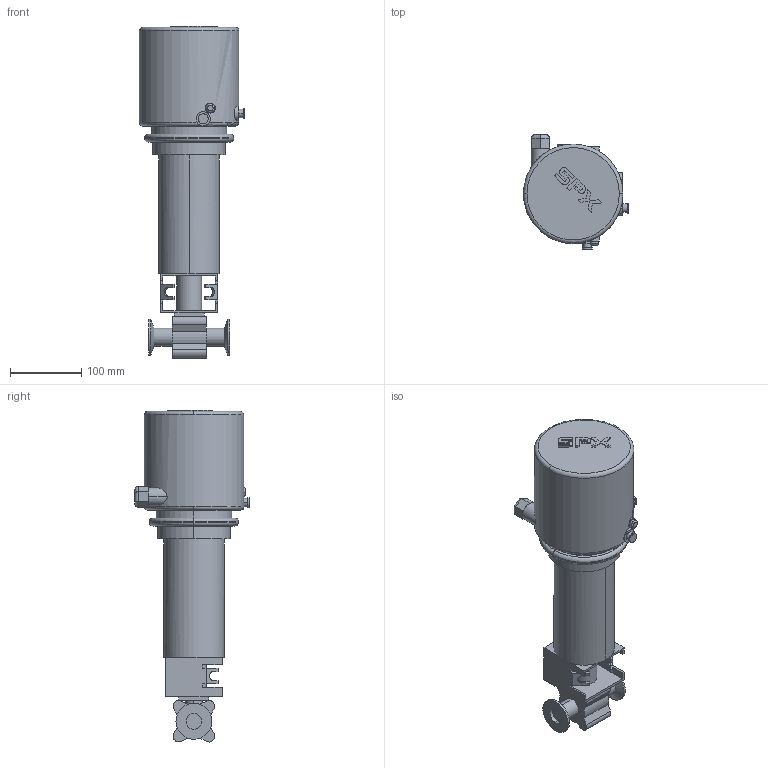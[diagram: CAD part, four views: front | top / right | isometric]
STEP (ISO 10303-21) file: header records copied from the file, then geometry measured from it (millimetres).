
FILE_DESCRIPTION(('Creo Elements/Direct Modeling STEP Export'),'2;1');
FILE_NAME('BLV1-1T-NC-12CL-CU4.stp','2019-05-10T 8:10:07',(''),(''),'Creo Elements/Direct Modeling STEP processor for AP214 (Solid Model)','Creo Elements/Direct Modeling 19.0F 14-Feb-2017 (C) Parametric Technology GmbH','');
FILE_SCHEMA(('AUTOMOTIVE_DESIGN { 1 0 10303 214 1 1 1 1 }'));
Length unit declared in the file: millimetre
Products named in the file (2): BLV1-1T-NC-12CL-CU4
Assembly tree (1 placements, depth 2):
  BLV1-1T-NC-12CL-CU4
    BLV1-1T-NC-12CL-CU4
Bounding box: 148 x 161.4 x 467.21 mm (x, y, z)
Volume: 3749921.9 mm3; surface area: 234434.4 mm2
Topology: 1 solids, 1 shells, 235 faces, 597 edges, 387 vertices
Faces by surface type: cylinder 114, plane 104, torus 10, cone 4, extrusion 3
Full cylindrical faces by diameter (mm): 140 x1
Entity records: 10230 total; most frequent: CARTESIAN_POINT 4547, ORIENTED_EDGE 1198, DIRECTION 1083, EDGE_CURVE 599, AXIS2_PLACEMENT_3D 397, VERTEX_POINT 387, VECTOR 289, LINE 286
